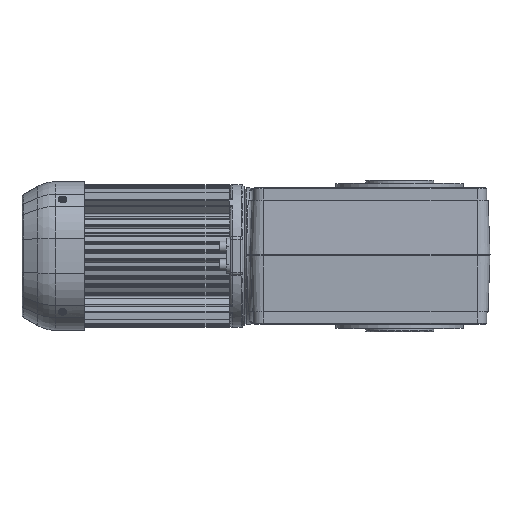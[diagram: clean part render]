
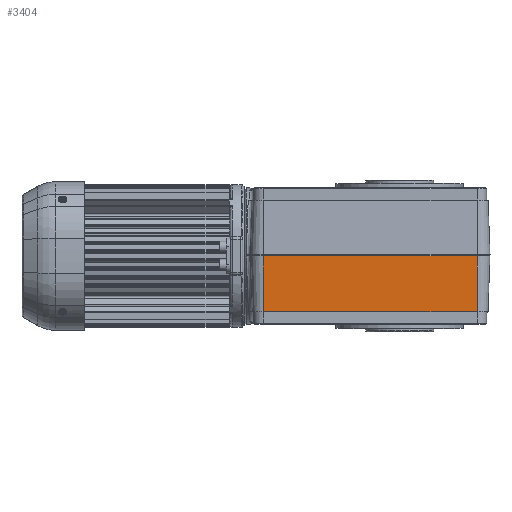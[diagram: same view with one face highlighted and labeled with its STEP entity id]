
A CAD part, top view. The second image highlights one B-rep face of the part: STEP entity #3404.
In plain terms, the highlighted planar face has unit normal (0, -0.035, 0.999).
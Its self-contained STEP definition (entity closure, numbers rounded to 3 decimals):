
#3404 = ADVANCED_FACE( '', ( #7700 ), #7701, .T. );
#7700 = FACE_OUTER_BOUND( '', #15453, .T. );
#7701 = PLANE( '', #15454 );
#15453 = EDGE_LOOP( '', ( #28342, #28343, #28344, #28345 ) );
#15454 = AXIS2_PLACEMENT_3D( '', #28346, #28347, #28348 );
#28342 = ORIENTED_EDGE( '', *, *, #34407, .T. );
#28343 = ORIENTED_EDGE( '', *, *, #35175, .T. );
#28344 = ORIENTED_EDGE( '', *, *, #37961, .F. );
#28345 = ORIENTED_EDGE( '', *, *, #37740, .T. );
#28346 = CARTESIAN_POINT( '', ( 106.537, -106.512, 301.692 ) );
#28347 = DIRECTION( '', ( 0., -0.035, 0.999 ) );
#28348 = DIRECTION( '', ( 0., 0.999, 0.035 ) );
#34407 = EDGE_CURVE( '', #39676, #39674, #39677, .T. );
#35175 = EDGE_CURVE( '', #39674, #41026, #41028, .T. );
#37740 = EDGE_CURVE( '', #44980, #39676, #44981, .T. );
#37961 = EDGE_CURVE( '', #44980, #41026, #45283, .T. );
#39674 = VERTEX_POINT( '', #47393 );
#39676 = VERTEX_POINT( '', #47395 );
#39677 = LINE( '', #47396, #47397 );
#41026 = VERTEX_POINT( '', #49712 );
#41028 = LINE( '', #49714, #49715 );
#44980 = VERTEX_POINT( '', #56368 );
#44981 = LINE( '', #56369, #56370 );
#45283 = LINE( '', #56932, #56933 );
#47393 = CARTESIAN_POINT( '', ( 232.037, -108.512, 301.622 ) );
#47395 = CARTESIAN_POINT( '', ( 232.037, -174.012, 299.335 ) );
#47396 = CARTESIAN_POINT( '', ( 232.037, -106.512, 301.692 ) );
#47397 = VECTOR( '', #60233, 1000. );
#49712 = CARTESIAN_POINT( '', ( -18.963, -108.512, 301.622 ) );
#49714 = CARTESIAN_POINT( '', ( 106.537, -108.512, 301.622 ) );
#49715 = VECTOR( '', #61395, 1000. );
#56368 = CARTESIAN_POINT( '', ( -18.963, -174.012, 299.335 ) );
#56369 = CARTESIAN_POINT( '', ( 232.037, -174.012, 299.335 ) );
#56370 = VECTOR( '', #65088, 1000. );
#56932 = CARTESIAN_POINT( '', ( -18.963, -106.512, 301.692 ) );
#56933 = VECTOR( '', #65370, 1000. );
#60233 = DIRECTION( '', ( 0., 0.999, 0.035 ) );
#61395 = DIRECTION( '', ( -1., 0., 0. ) );
#65088 = DIRECTION( '', ( 1., 0., 0. ) );
#65370 = DIRECTION( '', ( 0., 0.999, 0.035 ) );
